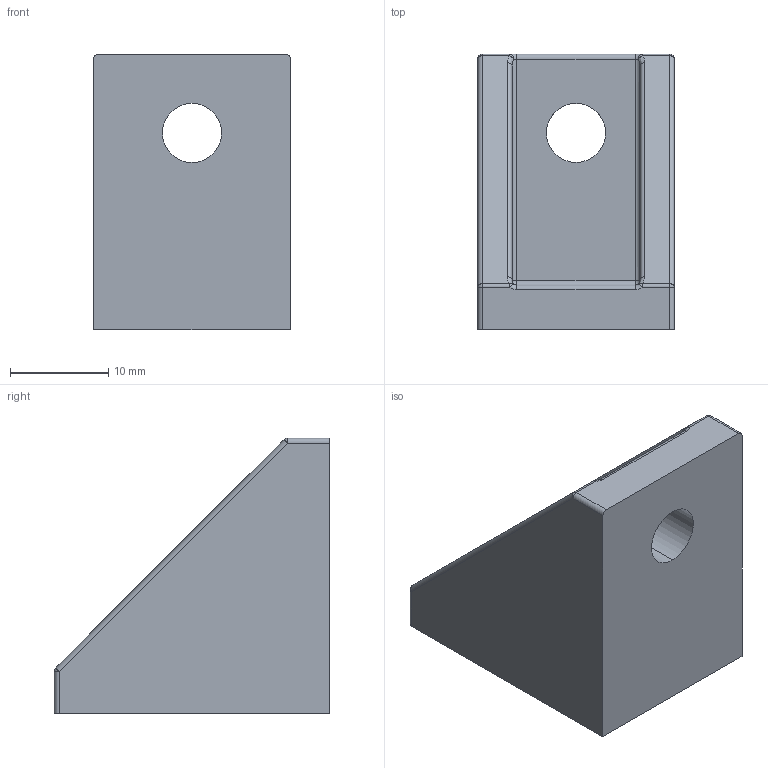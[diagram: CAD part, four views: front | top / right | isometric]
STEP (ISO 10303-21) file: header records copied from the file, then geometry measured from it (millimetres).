
FILE_DESCRIPTION (( 'STEP AP203' ), '1' );
FILE_NAME ('DCB2025-5.STEP', '2018-07-04T09:45:23', ( '' ), ( '' ), 'SwSTEP 2.0', 'SolidWorks 2012', '' );
FILE_SCHEMA (( 'CONFIG_CONTROL_DESIGN' ));
Length unit declared in the file: millimetre
Products named in the file (1): DCB2025-5
Bounding box: 20 x 28 x 28 mm (x, y, z)
Volume: 6309.7 mm3; surface area: 3707.5 mm2
Topology: 1 solids, 1 shells, 53 faces, 121 edges, 64 vertices
Faces by surface type: cylinder 23, plane 12, sphere 10, bspline 4, torus 4
Entity records: 1536 total; most frequent: CARTESIAN_POINT 301, DIRECTION 265, ORIENTED_EDGE 230, EDGE_CURVE 115, AXIS2_PLACEMENT_3D 108, VERTEX_POINT 64, CIRCLE 58, EDGE_LOOP 57
